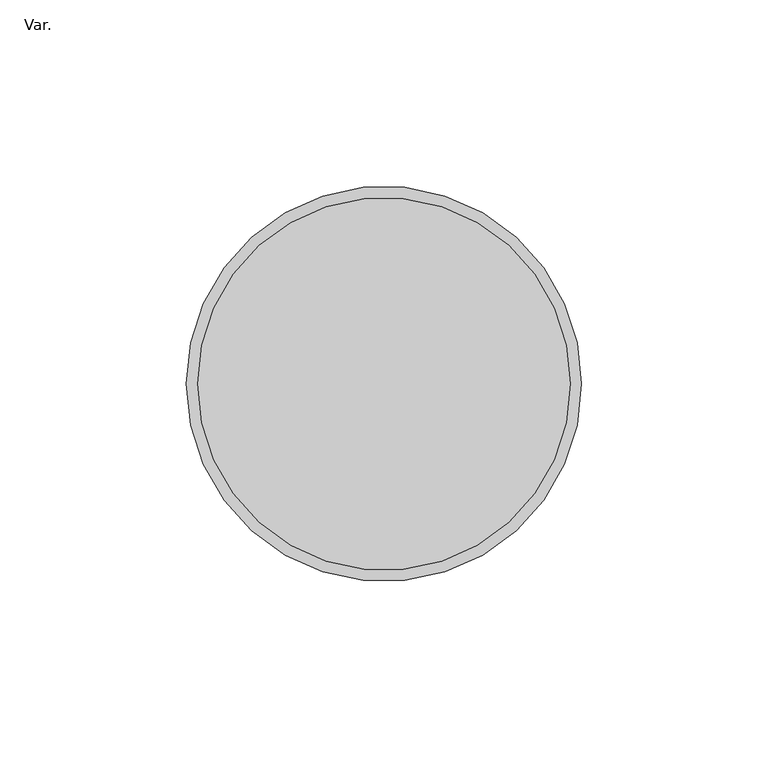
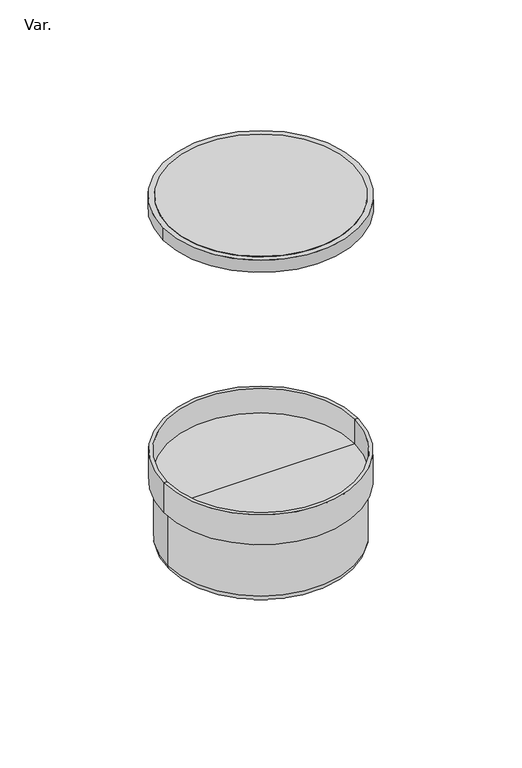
"""IFC4 building model written with IfcOpenShell, lengths in millimetres: pipe fitting geometry, AmancoWavin_ConexõesdeTubos_EsgotoRaloSecoCilindricocomProlongamento : Var.."""

from ifc_helpers import new_model, si_unit, point, frame, origin, origin_with_axes, origin_2d, place, context, project, spatial, polyline, circle_curve, ellipse_curve, trimmed, segment, composite_curve, outline, extrude, source, transform, mapped, element, save
from ifc_brep_helpers import plane_surface, cylinder_surface, revolved_surface, advanced_brep


def var_1266b2ea(model_context):
    return source(origin(), model_context, "Body", "SolidModel", [
        extrude(outline(composite_curve([segment(trimmed(circle_curve(origin_2d(), 50.0), [point((-50.0, 0.0))], [point((50.0, 0.0))], False, "CARTESIAN"), True, "CONTINUOUS"), segment(trimmed(circle_curve(origin_2d(), 50.0), [point((50.0, 0.0))], [point((-50.0, 0.0))], False, "CARTESIAN"), True, "CONTINUOUS")], self_intersect=False)), frame((0.0, 0.0, 191.0), z_axis=(0.0, 0.0, 1.0), x_axis=(1.0, 0.0, 0.0)), (0.0, 0.0, 1.0), 7.1),
        extrude(outline(composite_curve([segment(trimmed(circle_curve(origin_2d(), 53.0), [point((-53.0, 0.0))], [point((53.0, 0.0))], False, "CARTESIAN"), True, "CONTINUOUS"), segment(trimmed(circle_curve(origin_2d(), 53.0), [point((53.0, 0.0))], [point((-53.0, 0.0))], False, "CARTESIAN"), True, "CONTINUOUS")], self_intersect=False)), frame((0.0, 0.0, 191.0), z_axis=(0.0, 0.0, 1.0), x_axis=(1.0, 0.0, 0.0)), (0.0, 0.0, 1.0), 7.0),
        advanced_brep(
        [(52.7, 0.0, 35.0), (-52.7, 0.0, 35.0), (-52.7, 0.0, 52.0), (52.7, 0.0, 52.0), (50.5, 0.0, 4.0), (-50.5, 0.0, 4.0), (-50.5, 0.0, 33.7298294), (50.5, 0.0, 33.7298294), (46.5, 0.0, 0.0), (-46.5, 0.0, 0.0), (20.0, 0.0, 0.0), (-20.0, 0.0, 0.0), (0.0, 0.0, 0.0), (-18.2, 0.0, 0.0), (18.2, 0.0, 0.0), (20.0, 0.0, -16.2), (-20.0, 0.0, -16.2), (18.2, 0.0, -18.0), (-18.2, 0.0, -18.0), (50.8, 0.0, 38.0), (-50.8, 0.0, 38.0), (0.0, 0.0, 38.0), (50.8, 0.0, 52.0), (-50.8, 0.0, 52.0)],
        [
            (0, 1, circle_curve(frame((0.0, 0.0, 35.0), z_axis=(0.0, 0.0, 1.0), x_axis=(-1.0, 0.0, 0.0)), 52.7)),
            (1, 2),
            (2, 3, circle_curve(frame((0.0, 0.0, 52.0), z_axis=(0.0, 0.0, -1.0), x_axis=(-1.0, 0.0, 0.0)), 52.7)),
            (3, 0),
            (1, 0, circle_curve(frame((0.0, 0.0, 35.0), z_axis=(0.0, 0.0, 1.0), x_axis=(-1.0, 0.0, 0.0)), 52.7)),
            (3, 2, circle_curve(frame((0.0, 0.0, 52.0), z_axis=(0.0, 0.0, -1.0), x_axis=(-1.0, 0.0, 0.0)), 52.7)),
            (4, 5, circle_curve(frame((0.0, 0.0, 4.0), z_axis=(0.0, 0.0, 1.0), x_axis=(-1.0, 0.0, 0.0)), 50.5)),
            (5, 6),
            (6, 7, circle_curve(frame((0.0, 0.0, 33.7298294), z_axis=(0.0, 0.0, -1.0), x_axis=(-1.0, 0.0, 0.0)), 50.5)),
            (7, 4),
            (5, 4, circle_curve(frame((0.0, 0.0, 4.0), z_axis=(0.0, 0.0, 1.0), x_axis=(-1.0, 0.0, 0.0)), 50.5)),
            (7, 6, circle_curve(frame((0.0, 0.0, 33.7298294), z_axis=(0.0, 0.0, -1.0), x_axis=(-1.0, 0.0, 0.0)), 50.5)),
            (4, 8, circle_curve(frame((46.5, 0.0, 4.0), z_axis=(0.0, 1.0, 0.0), x_axis=(-1.0, 0.0, 0.0)), 4.0)),
            (8, 9, circle_curve(frame((0.0, 0.0, 0.0), z_axis=(0.0, 0.0, 1.0), x_axis=(-1.0, 0.0, 0.0)), 46.5)),
            (9, 5, circle_curve(frame((-46.5, 0.0, 4.0), z_axis=(0.0, 1.0, 0.0), x_axis=(1.0, 0.0, 0.0)), 4.0)),
            (9, 8, circle_curve(frame((0.0, 0.0, 0.0), z_axis=(0.0, 0.0, 1.0), x_axis=(-1.0, 0.0, 0.0)), 46.5)),
            (8, 10),
            (10, 11, circle_curve(origin_with_axes(), 20.0)),
            (11, 9),
            (12, 13),
            (13, 14, circle_curve(frame((0.0, 0.0, 0.0), z_axis=(0.0, 0.0, -1.0), x_axis=(1.0, 0.0, 0.0)), 18.2)),
            (14, 12),
            (11, 10, circle_curve(origin_with_axes(), 20.0)),
            (14, 13, circle_curve(frame((0.0, 0.0, 0.0), z_axis=(0.0, 0.0, -1.0), x_axis=(1.0, 0.0, 0.0)), 18.2)),
            (0, 7),
            (6, 1),
            (10, 15),
            (15, 16, circle_curve(frame((0.0, 0.0, -16.2), z_axis=(0.0, 0.0, 1.0), x_axis=(1.0, 0.0, 0.0)), 20.0)),
            (16, 11),
            (16, 15, circle_curve(frame((0.0, 0.0, -16.2), z_axis=(0.0, 0.0, 1.0), x_axis=(1.0, 0.0, 0.0)), 20.0)),
            (15, 17),
            (17, 18, circle_curve(frame((0.0, 0.0, -18.0), z_axis=(0.0, 0.0, 1.0), x_axis=(1.0, 0.0, 0.0)), 18.2)),
            (18, 16),
            (18, 17, circle_curve(frame((0.0, 0.0, -18.0), z_axis=(0.0, 0.0, 1.0), x_axis=(1.0, 0.0, 0.0)), 18.2)),
            (17, 14),
            (13, 18),
            (19, 20, circle_curve(frame((0.0, 0.0, 38.0), z_axis=(0.0, 0.0, 1.0), x_axis=(-1.0, 0.0, 0.0)), 50.8)),
            (20, 21),
            (21, 19),
            (20, 19, circle_curve(frame((0.0, 0.0, 38.0), z_axis=(0.0, 0.0, 1.0), x_axis=(-1.0, 0.0, 0.0)), 50.8)),
            (19, 22),
            (22, 23, circle_curve(frame((0.0, 0.0, 52.0), z_axis=(0.0, 0.0, 1.0), x_axis=(-1.0, 0.0, 0.0)), 50.8)),
            (23, 20),
            (23, 22, circle_curve(frame((0.0, 0.0, 52.0), z_axis=(0.0, 0.0, 1.0), x_axis=(-1.0, 0.0, 0.0)), 50.8)),
            (2, 23),
            (22, 3),
        ],
        [
            cylinder_surface(frame((0.0, 0.0, 2275.1842526), z_axis=(0.0, 0.0, -1.0), x_axis=(-1.0, 0.0, 0.0)), 52.7),
            cylinder_surface(frame((0.0, 0.0, 2275.1842526), z_axis=(0.0, 0.0, -1.0), x_axis=(-1.0, 0.0, 0.0)), 50.5),
            revolved_surface(trimmed(ellipse_curve(frame((-46.5, 0.0, 4.0), z_axis=(0.0, -1.0, 0.0), x_axis=(1.0, 0.0, 0.0)), 4.0, 4.0), [point((-50.5, 0.0, 4.0))], [point((-46.5, 0.0, 0.0))], True, "CARTESIAN"), (0.0, 0.0, 2275.1842526), (0.0, 0.0, -1.0)),
            plane_surface(frame((0.0, 0.0, 0.0), z_axis=(0.0, 0.0, -1.0), x_axis=(-1.0, 0.0, 0.0))),
            revolved_surface(polyline([(-52.7, 0.0, 35.0), (-50.5, 0.0, 33.7298294)]), (0.0, 0.0, 2275.1842526), (0.0, 0.0, -1.0)),
            cylinder_surface(origin_with_axes(), 20.0),
            revolved_surface(polyline([(18.2, 0.0, -18.0), (20.0, 0.0, -16.2)]), (0.0, 0.0, 0.0), (0.0, 0.0, 1.0)),
            revolved_surface(polyline([(18.2, 0.0, 0.0), (18.2, 0.0, -18.0)]), (0.0, 0.0, 0.0), (0.0, 0.0, 1.0)),
            plane_surface(frame((0.0, 0.0, 38.0), z_axis=(0.0, 0.0, 1.0), x_axis=(-1.0, 0.0, 0.0))),
            revolved_surface(polyline([(-50.8, 0.0, 38.0), (-50.8, 0.0, 52.0)]), (0.0, 0.0, 2275.1842526), (0.0, 0.0, -1.0)),
            plane_surface(frame((0.0, 0.0, 52.0), z_axis=(0.0, 0.0, 1.0), x_axis=(-1.0, 0.0, 0.0))),
        ],
        [
            (0, [[1, 2, 3, 4]]),
            (0, [[-2, 5, -4, 6]]),
            (1, [[7, 8, 9, 10]]),
            (1, [[-8, 11, -10, 12]]),
            (2, [[-7, 13, 14, 15]]),
            (2, [[-11, -15, 16, -13]]),
            (3, [[-14, 17, 18, 19]]),
            (3, [[20, 21, 22]]),
            (3, [[-16, -19, 23, -17]]),
            (3, [[-20, -22, 24]]),
            (4, [[-1, 25, -9, 26]]),
            (4, [[-5, -26, -12, -25]]),
            (5, [[27, 28, 29, -18]]),
            (5, [[-27, -23, -29, 30]]),
            (6, [[-28, 31, 32, 33]]),
            (6, [[-30, -33, 34, -31]]),
            (7, [[-32, 35, -21, 36]]),
            (7, [[-34, -36, -24, -35]]),
            (8, [[37, 38, 39]]),
            (8, [[-38, 40, -39]]),
            (9, [[-37, 41, 42, 43]]),
            (9, [[-40, -43, 44, -41]]),
            (10, [[-3, 45, -42, 46]]),
            (10, [[-6, -46, -44, -45]]),
        ],
    ),
    ])


if __name__ == "__main__":
    model = new_model("IFC4")
    model_context = context("Model", 3, world=origin())
    ifc_project = project(units=[si_unit("LENGTHUNIT", "METRE", prefix="MILLI")], contexts=[model_context])
    site = spatial("IfcSite", under=ifc_project)
    building = spatial("IfcBuilding", under=site)
    placement = place(None, origin())
    var_shape = var_1266b2ea(model_context)
    element("IfcPipeFitting", 1, ObjectType="AmancoWavin_ConexõesdeTubos_EsgotoRaloSecoCilindricocomProlongamento : Var.", at=placement, inside=building, context=model_context, shape_type="MappedRepresentation", body=[
        mapped(var_shape, transform((0.0, 0.0, 0.0), x_axis=(1.0, 0.0, 0.0), y_axis=(0.0, 1.0, 0.0), z_axis=(0.0, 0.0, 1.0))),
    ])
    save(model, "model.ifc")
